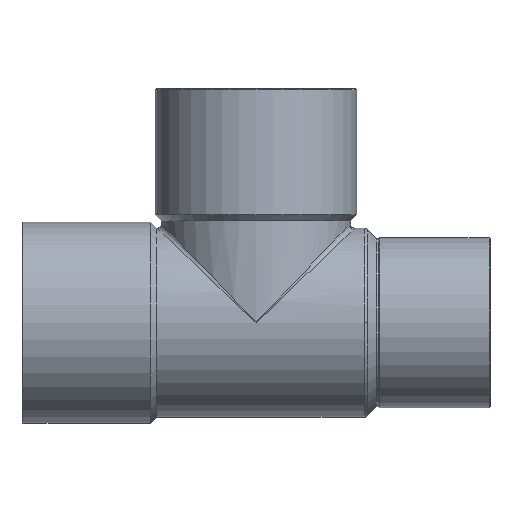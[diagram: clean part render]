
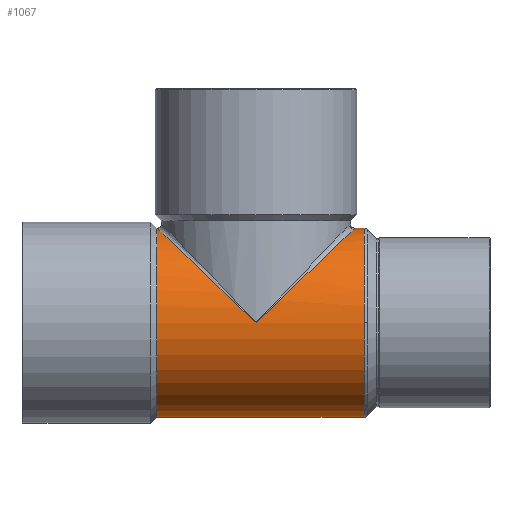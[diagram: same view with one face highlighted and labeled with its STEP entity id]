
A CAD part, top view. The second image highlights one B-rep face of the part: STEP entity #1067.
In plain terms, the highlighted cylindrical face has radius 21 mm (diameter 42 mm), a partial arc.
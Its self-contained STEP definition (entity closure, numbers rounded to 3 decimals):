
#337=CARTESIAN_POINT('',(-22.087,21.,0.0));
#338=VERTEX_POINT('',#337);
#354=CARTESIAN_POINT('',(-22.087,-21.,0.));
#355=VERTEX_POINT('',#354);
#362=CARTESIAN_POINT('',(-22.087,0.0,0.0));
#363=DIRECTION('',(1.0,0.0,0.0));
#364=DIRECTION('',(0.0,1.0,0.0));
#365=AXIS2_PLACEMENT_3D('',#362,#363,#364);
#366=CIRCLE('',#365,21.);
#367=EDGE_CURVE('',#338,#355,#366,.T.);
#404=CARTESIAN_POINT('',(0.0,0.0,21.0));
#405=VERTEX_POINT('',#404);
#1003=CARTESIAN_POINT('',(1.175,0.0,0.0));
#1004=DIRECTION('',(1.0,0.0,0.0));
#1005=DIRECTION('',(0.0,1.0,0.0));
#1006=AXIS2_PLACEMENT_3D('',#1003,#1004,#1005);
#1007=CYLINDRICAL_SURFACE('',#1006,21.0);
#1008=CARTESIAN_POINT('',(-22.,21.0,0.));
#1009=VERTEX_POINT('',#1008);
#1010=CARTESIAN_POINT('',(-22.087,21.,0.0));
#1011=DIRECTION('',(1.0,0.0,0.0));
#1012=VECTOR('',#1011,0.087);
#1013=LINE('',#1010,#1012);
#1014=EDGE_CURVE('',#338,#1009,#1013,.T.);
#1015=ORIENTED_EDGE('',*,*,#1014,.F.);
#1016=ORIENTED_EDGE('',*,*,#367,.T.);
#1017=CARTESIAN_POINT('',(24.022,-21.0,0.));
#1018=VERTEX_POINT('',#1017);
#1019=CARTESIAN_POINT('',(24.022,-21.0,0.));
#1020=DIRECTION('',(-1.0,0.0,0.0));
#1021=VECTOR('',#1020,46.109);
#1022=LINE('',#1019,#1021);
#1023=EDGE_CURVE('',#1018,#355,#1022,.T.);
#1024=ORIENTED_EDGE('',*,*,#1023,.F.);
#1025=CARTESIAN_POINT('',(24.022,0.,21.0));
#1026=VERTEX_POINT('',#1025);
#1027=CARTESIAN_POINT('',(24.022,0.0,0.0));
#1028=DIRECTION('',(1.0,0.0,0.0));
#1029=DIRECTION('',(0.0,-1.0,0.0));
#1030=AXIS2_PLACEMENT_3D('',#1027,#1028,#1029);
#1031=CIRCLE('',#1030,21.0);
#1032=EDGE_CURVE('',#1026,#1018,#1031,.T.);
#1033=ORIENTED_EDGE('',*,*,#1032,.F.);
#1034=CARTESIAN_POINT('',(24.022,21.0,0.0));
#1035=VERTEX_POINT('',#1034);
#1036=CARTESIAN_POINT('',(24.022,0.0,0.0));
#1037=DIRECTION('',(1.0,0.0,0.0));
#1038=DIRECTION('',(0.0,-1.0,0.0));
#1039=AXIS2_PLACEMENT_3D('',#1036,#1037,#1038);
#1040=CIRCLE('',#1039,21.0);
#1041=EDGE_CURVE('',#1035,#1026,#1040,.T.);
#1042=ORIENTED_EDGE('',*,*,#1041,.F.);
#1043=CARTESIAN_POINT('',(22.,21.0,0.));
#1044=VERTEX_POINT('',#1043);
#1045=CARTESIAN_POINT('',(22.,21.0,0.));
#1046=DIRECTION('',(1.0,0.0,0.0));
#1047=VECTOR('',#1046,2.022);
#1048=LINE('',#1045,#1047);
#1049=EDGE_CURVE('',#1044,#1035,#1048,.T.);
#1050=ORIENTED_EDGE('',*,*,#1049,.F.);
#1051=CARTESIAN_POINT('',(0.0,0.0,0.0));
#1052=DIRECTION('',(-0.69,0.723,0.0));
#1053=DIRECTION('',(0.723,0.69,0.0));
#1054=AXIS2_PLACEMENT_3D('',#1051,#1052,#1053);
#1055=ELLIPSE('',#1054,30.414,21.);
#1056=EDGE_CURVE('',#405,#1044,#1055,.T.);
#1057=ORIENTED_EDGE('',*,*,#1056,.F.);
#1058=CARTESIAN_POINT('',(0.0,0.0,0.0));
#1059=DIRECTION('',(0.69,0.723,0.0));
#1060=DIRECTION('',(-0.723,0.69,0.0));
#1061=AXIS2_PLACEMENT_3D('',#1058,#1059,#1060);
#1062=ELLIPSE('',#1061,30.414,21.);
#1063=EDGE_CURVE('',#1009,#405,#1062,.T.);
#1064=ORIENTED_EDGE('',*,*,#1063,.F.);
#1065=EDGE_LOOP('',(#1015,#1016,#1024,#1033,#1042,#1050,#1057,#1064));
#1066=FACE_OUTER_BOUND('',#1065,.T.);
#1067=ADVANCED_FACE('',(#1066),#1007,.T.);
